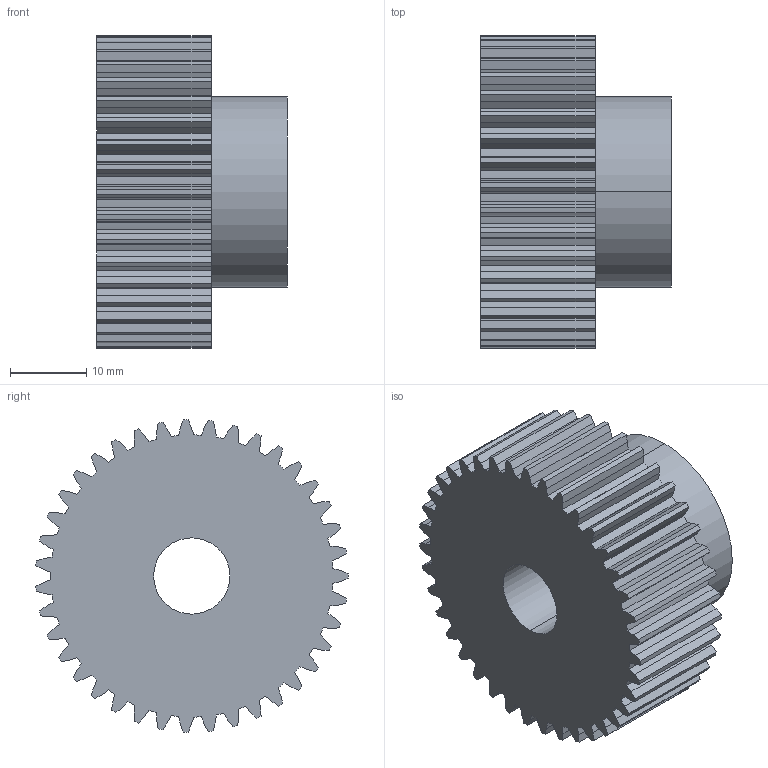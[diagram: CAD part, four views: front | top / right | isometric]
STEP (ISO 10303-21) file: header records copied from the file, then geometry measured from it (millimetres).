
FILE_DESCRIPTION (( 'STEP AP203' ), '1' );
FILE_NAME ('PM 26039.STEP', '2013-09-23T12:45:38', ( '' ), ( '' ), 'SwSTEP 2.0', 'SolidWorks 2010', '' );
FILE_SCHEMA (( 'CONFIG_CONTROL_DESIGN' ));
Length unit declared in the file: millimetre
Products named in the file (1): PM 26039
Bounding box: 25 x 40.96 x 40.99 mm (x, y, z)
Volume: 20684.8 mm3; surface area: 7243.5 mm2
Topology: 1 solids, 1 shells, 241 faces, 714 edges, 476 vertices
Faces by surface type: plane 159, cylinder 82
Entity records: 8135 total; most frequent: CARTESIAN_POINT 1438, ORIENTED_EDGE 1428, DIRECTION 1360, EDGE_CURVE 714, LINE 548, VECTOR 548, VERTEX_POINT 476, AXIS2_PLACEMENT_3D 406
